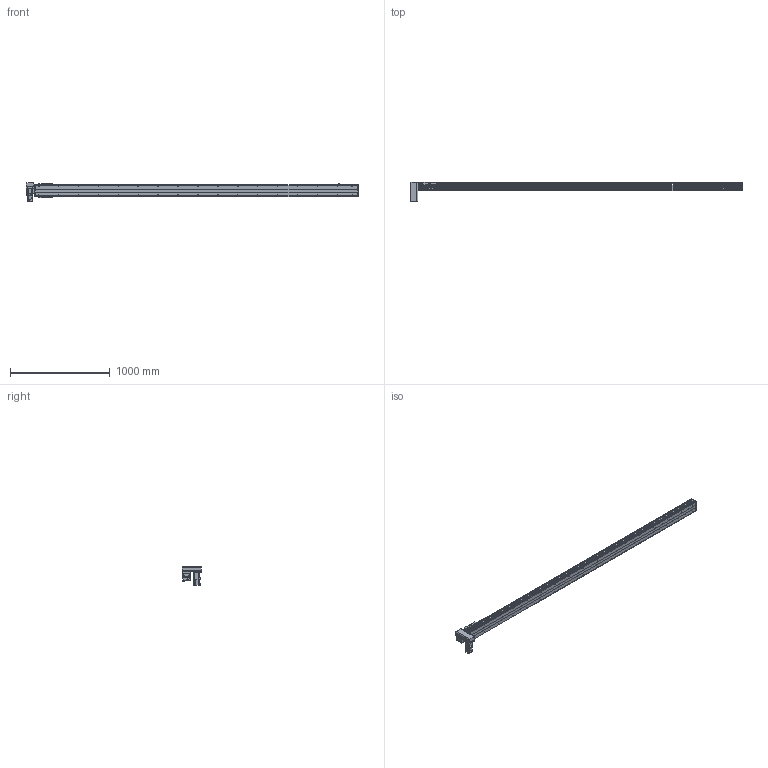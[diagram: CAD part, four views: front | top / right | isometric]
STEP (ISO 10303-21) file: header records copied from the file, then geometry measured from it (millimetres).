
FILE_DESCRIPTION(/* description */ ('STEP AP214'),/* implementation_level */ '2;1');
FILE_NAME(/* name */ 'PBS120-P40-S2950-RD-T40-C1-N(0)',/* time_stamp */ '2022-06-06T02:44:44+02:00',/* author */ ('License CC BY-ND 4.0'),/* organization */ ('CADENAS'),/* preprocessor_version */ 'ST-DEVELOPER v18.102',/* originating_system */ 'PARTsolutions',/* authorisation */ ' ');
FILE_SCHEMA (('AUTOMOTIVE_DESIGN {1 0 10303 214 3 1 1}'));
Length unit declared in the file: millimetre
Products named in the file (7): PBS120-P40-S2950-RD-T40-C1-N(0); PBS120_sensor; PBS120_plant; PBS120_sliser; T40-p1; PBS120T-RD_motors; PBS120-S2950()_body
Assembly tree (8 placements, depth 2):
  PBS120-P40-S2950-RD-T40-C1-N(0)
    PBS120_sensor  x3
    PBS120_plant
    PBS120_sliser
    T40-p1
    PBS120T-RD_motors
    PBS120-S2950()_body
Bounding box: 3336 x 196 x 189.7 mm (x, y, z)
Volume: 12308451.7 mm3; surface area: 2564156.5 mm2
Topology: 8 solids, 8 shells, 882 faces, 2246 edges, 1441 vertices
Faces by surface type: plane 567, cylinder 247, cone 66, torus 2
Full cylindrical faces by diameter (mm): 2.459 x6, 3.242 x4, 4 x2, 4.134 x4, 4.5 x10, 4.917 x38, 5.5 x11, 6 x2, 6.6 x1, 7 x2, 8.5 x4, 9 x4, 12 x1, 14 x1, 30 x2, 40 x1, 50 x2
Entity records: 22674 total; most frequent: DIRECTION 3956, CARTESIAN_POINT 3839, ORIENTED_EDGE 3610, EDGE_CURVE 1805, AXIS2_PLACEMENT_3D 1364, VERTEX_POINT 1247, LINE 1228, VECTOR 1228
